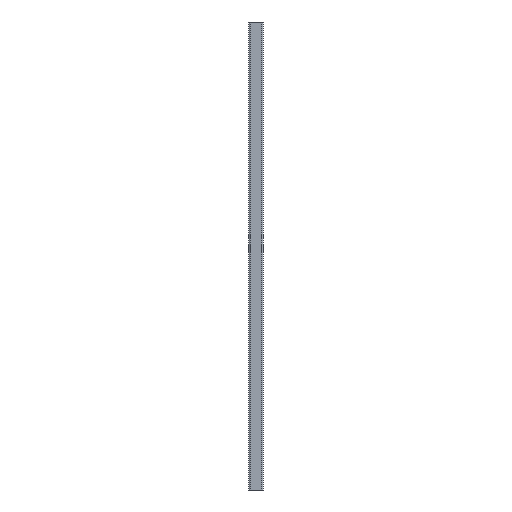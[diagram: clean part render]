
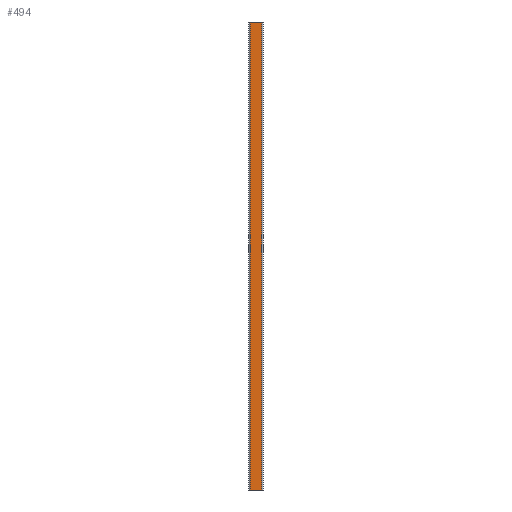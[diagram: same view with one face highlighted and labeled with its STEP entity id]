
A CAD part, front view. The second image highlights one B-rep face of the part: STEP entity #494.
In plain terms, the highlighted planar face has unit normal (0, -1, 0).
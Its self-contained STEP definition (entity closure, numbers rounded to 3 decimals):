
#9 = CARTESIAN_POINT ( 'NONE',  ( -12., -15., -500. ) ) ;
#37 = VERTEX_POINT ( 'NONE', #9 ) ;
#87 = VECTOR ( 'NONE', #1187, 1000. ) ;
#102 = ORIENTED_EDGE ( 'NONE', *, *, #880, .F. ) ;
#117 = PLANE ( 'NONE',  #830 ) ;
#137 = VECTOR ( 'NONE', #1233, 1000. ) ;
#189 = EDGE_CURVE ( 'NONE', #37, #1329, #885, .T. ) ;
#202 = LINE ( 'NONE', #718, #137 ) ;
#233 = CARTESIAN_POINT ( 'NONE',  ( -12., -15., -500. ) ) ;
#237 = ORIENTED_EDGE ( 'NONE', *, *, #1140, .T. ) ;
#315 = ORIENTED_EDGE ( 'NONE', *, *, #189, .F. ) ;
#319 = CARTESIAN_POINT ( 'NONE',  ( -12., -15., 500. ) ) ;
#357 = CARTESIAN_POINT ( 'NONE',  ( -12., -15., 500. ) ) ;
#435 = VERTEX_POINT ( 'NONE', #736 ) ;
#494 = ADVANCED_FACE ( 'NONE', ( #1049 ), #117, .T. ) ;
#508 = ORIENTED_EDGE ( 'NONE', *, *, #965, .T. ) ;
#557 = CARTESIAN_POINT ( 'NONE',  ( -12., -15., -500. ) ) ;
#562 = LINE ( 'NONE', #573, #1131 ) ;
#573 = CARTESIAN_POINT ( 'NONE',  ( 12., -15., -500. ) ) ;
#607 = EDGE_LOOP ( 'NONE', ( #102, #315, #237, #508 ) ) ;
#635 = CARTESIAN_POINT ( 'NONE',  ( 12., -15., 500. ) ) ;
#718 = CARTESIAN_POINT ( 'NONE',  ( -12., -15., -500. ) ) ;
#736 = CARTESIAN_POINT ( 'NONE',  ( 12., -15., -500. ) ) ;
#830 = AXIS2_PLACEMENT_3D ( 'NONE', #233, #985, #1271 ) ;
#880 = EDGE_CURVE ( 'NONE', #1329, #1334, #1277, .T. ) ;
#885 = LINE ( 'NONE', #557, #1103 ) ;
#965 = EDGE_CURVE ( 'NONE', #435, #1334, #562, .T. ) ;
#972 = DIRECTION ( 'NONE',  ( 0., 0., 1. ) ) ;
#985 = DIRECTION ( 'NONE',  ( 0., -1., 0. ) ) ;
#991 = DIRECTION ( 'NONE',  ( 0., 0., 1. ) ) ;
#1049 = FACE_OUTER_BOUND ( 'NONE', #607, .T. ) ;
#1103 = VECTOR ( 'NONE', #972, 1000. ) ;
#1131 = VECTOR ( 'NONE', #991, 1000. ) ;
#1140 = EDGE_CURVE ( 'NONE', #37, #435, #202, .T. ) ;
#1187 = DIRECTION ( 'NONE',  ( 1., 0., 0. ) ) ;
#1233 = DIRECTION ( 'NONE',  ( 1., 0., 0. ) ) ;
#1271 = DIRECTION ( 'NONE',  ( 1., 0., 0. ) ) ;
#1277 = LINE ( 'NONE', #357, #87 ) ;
#1329 = VERTEX_POINT ( 'NONE', #319 ) ;
#1334 = VERTEX_POINT ( 'NONE', #635 ) ;
